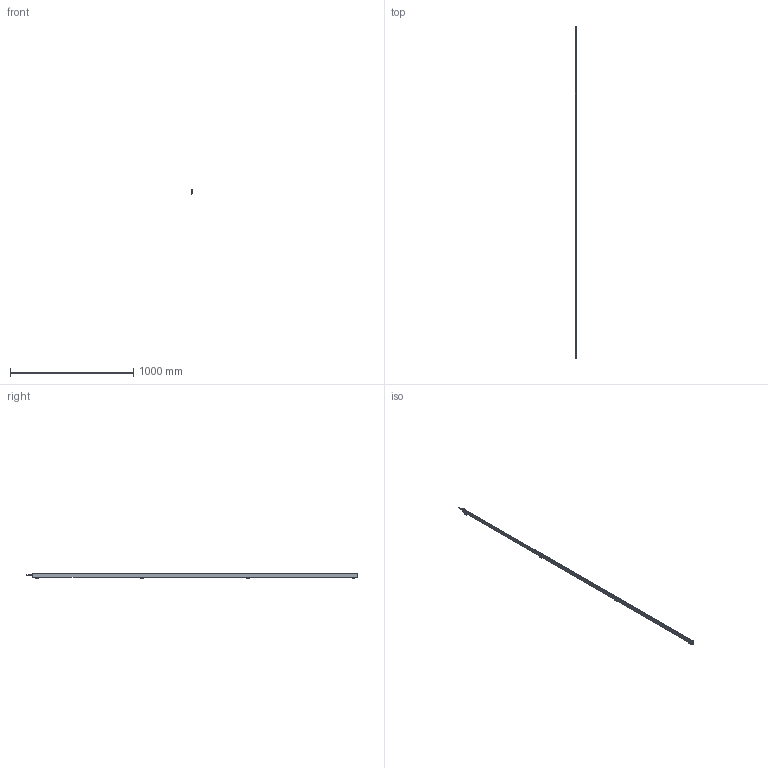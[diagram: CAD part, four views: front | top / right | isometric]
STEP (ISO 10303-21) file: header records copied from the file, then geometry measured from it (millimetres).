
FILE_DESCRIPTION (( 'STEP AP214' ), '1' );
FILE_NAME ('ILG-N-K2-2640mm.STEP', '2017-07-10T14:12:32', ( '' ), ( '' ), 'SwSTEP 2.0', 'SolidWorks 2016', '' );
FILE_SCHEMA (( 'AUTOMOTIVE_DESIGN' ));
Length unit declared in the file: millimetre
Products named in the file (1): ILG-N-K2-2640mm
Bounding box: 10.2 x 2693.5 x 42.41 mm (x, y, z)
Surface area: 440857.5 mm2 (no closed solid volume)
Topology: 0 solids, 17 shells, 822 faces, 2121 edges, 1329 vertices
Faces by surface type: plane 379, cylinder 305, cone 90, bspline 32, torus 16
Entity records: 36121 total; most frequent: CARTESIAN_POINT 7158, ORIENTED_EDGE 4195, DIRECTION 4057, EDGE_CURVE 2105, AXIS2_PLACEMENT_3D 1476, VERTEX_POINT 1329, LINE 1105, VECTOR 1105
